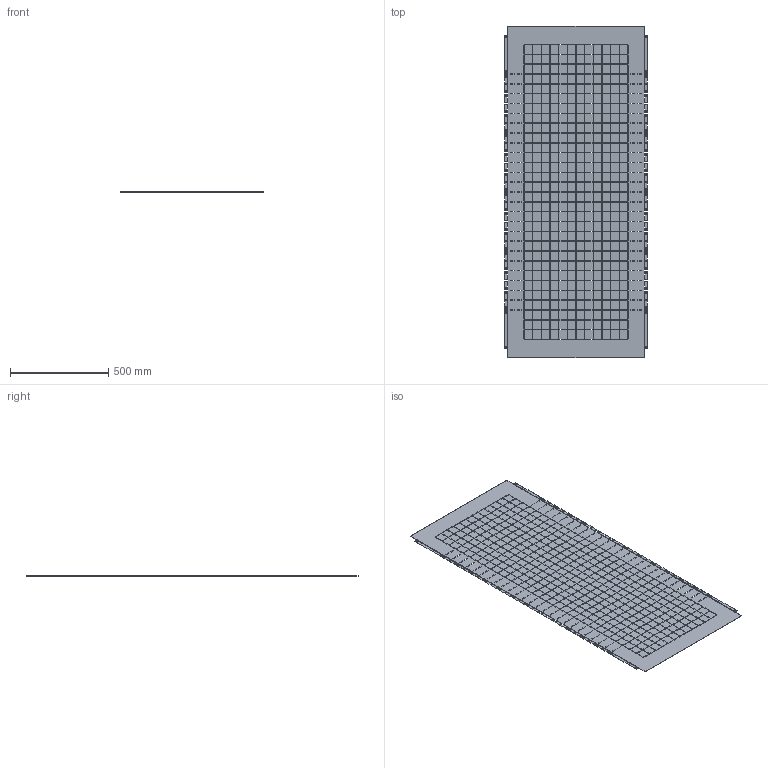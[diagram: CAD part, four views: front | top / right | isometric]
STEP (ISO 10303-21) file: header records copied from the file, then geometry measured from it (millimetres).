
FILE_DESCRIPTION (( 'STEP AP203' ), '1' );
FILE_NAME ('MA1.800.060818.03.01 Ïàíåëü âåðòèêàëüíàÿ äëÿ ñåêöèîíèðîâàíèÿ Ã800 Â1800 ìì EKF.STEP', '2024-12-02T14:02:58', ( '' ), ( '' ), 'SwSTEP 2.0', 'SolidWorks 2021', '' );
FILE_SCHEMA (( 'CONFIG_CONTROL_DESIGN' ));
Products named in the file (1): MA1.800.060818.03.01 Ïàíåëü âåðòèêàëüíàÿ äëÿ ñåêöèîíèðîâàíèÿ Ã800 Â1800 ìì EKF
Bounding box: 726.6 x 1688 x 1 mm (x, y, z)
Volume: 1143101.6 mm3; surface area: 2369254 mm2
Topology: 1 solids, 1 shells, 4158 faces, 12468 edges, 8312 vertices
Faces by surface type: plane 4046, cylinder 112
Entity records: 141417 total; most frequent: CARTESIAN_POINT 24939, ORIENTED_EDGE 24936, DIRECTION 21010, EDGE_CURVE 12468, VECTOR 12244, LINE 12244, VERTEX_POINT 8312, EDGE_LOOP 6130
